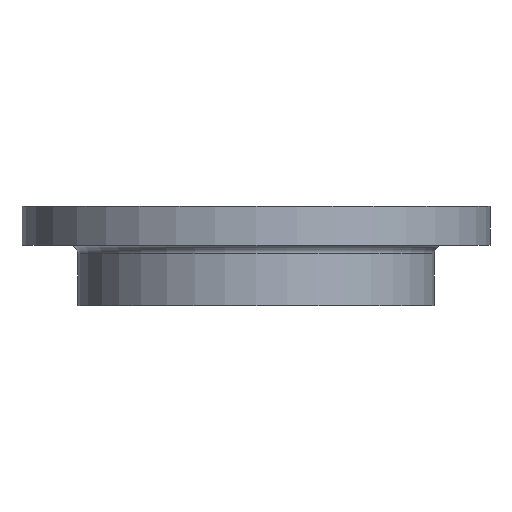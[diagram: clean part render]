
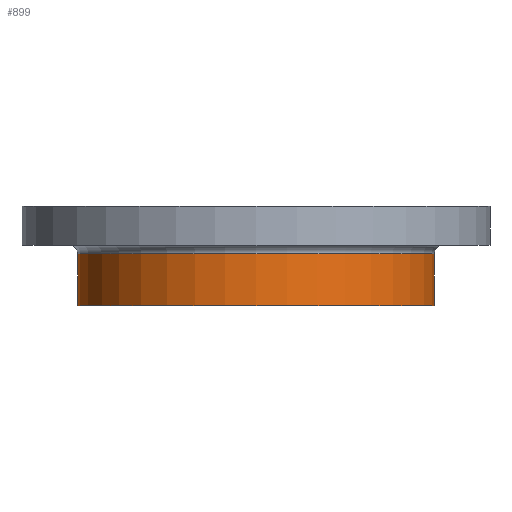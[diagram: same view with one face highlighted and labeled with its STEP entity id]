
A CAD part, front view. The second image highlights one B-rep face of the part: STEP entity #899.
In plain terms, the highlighted cylindrical face has radius 261 mm (diameter 522 mm), a partial arc.
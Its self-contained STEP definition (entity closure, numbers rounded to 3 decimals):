
#53 = DIRECTION ( 'NONE',  ( 1., 0., 0. ) ) ;
#54 = DIRECTION ( 'NONE',  ( 0., 0., 1. ) ) ;
#55 = CARTESIAN_POINT ( 'NONE',  ( 0., 0., -145. ) ) ;
#70 = AXIS2_PLACEMENT_3D ( 'NONE', #92, #917, #1423 ) ;
#84 = CARTESIAN_POINT ( 'NONE',  ( 261., 0., -145. ) ) ;
#92 = CARTESIAN_POINT ( 'NONE',  ( 0., 0., 0. ) ) ;
#123 = CIRCLE ( 'NONE', #159, 261. ) ;
#154 = CARTESIAN_POINT ( 'NONE',  ( -261., 0., -69. ) ) ;
#159 = AXIS2_PLACEMENT_3D ( 'NONE', #55, #54, #53 ) ;
#176 = EDGE_CURVE ( 'NONE', #470, #520, #360, .T. ) ;
#193 = CARTESIAN_POINT ( 'NONE',  ( -261., 0., -145. ) ) ;
#221 = AXIS2_PLACEMENT_3D ( 'NONE', #1280, #1636, #451 ) ;
#228 = CIRCLE ( 'NONE', #221, 261. ) ;
#253 = CARTESIAN_POINT ( 'NONE',  ( 261., 0., -69. ) ) ;
#357 = DIRECTION ( 'NONE',  ( 0., 0., 1. ) ) ;
#358 = CARTESIAN_POINT ( 'NONE',  ( -261., 0., 0. ) ) ;
#360 = LINE ( 'NONE', #358, #1210 ) ;
#374 = CARTESIAN_POINT ( 'NONE',  ( 261., 0., 0. ) ) ;
#419 = VERTEX_POINT ( 'NONE', #253 ) ;
#451 = DIRECTION ( 'NONE',  ( 1., 0., 0. ) ) ;
#470 = VERTEX_POINT ( 'NONE', #193 ) ;
#520 = VERTEX_POINT ( 'NONE', #154 ) ;
#654 = VERTEX_POINT ( 'NONE', #84 ) ;
#693 = EDGE_CURVE ( 'NONE', #470, #654, #123, .T. ) ;
#831 = EDGE_LOOP ( 'NONE', ( #1255, #1258, #1260, #1261 ) ) ;
#833 = VECTOR ( 'NONE', #1073, 1000. ) ;
#899 = ADVANCED_FACE ( 'NONE', ( #1026 ), #1503, .T. ) ;
#917 = DIRECTION ( 'NONE',  ( 0., 0., 1. ) ) ;
#963 = EDGE_CURVE ( 'NONE', #654, #419, #1614, .T. ) ;
#1026 = FACE_OUTER_BOUND ( 'NONE', #831, .T. ) ;
#1073 = DIRECTION ( 'NONE',  ( 0., 0., 1. ) ) ;
#1105 = EDGE_CURVE ( 'NONE', #520, #419, #228, .T. ) ;
#1210 = VECTOR ( 'NONE', #357, 1000. ) ;
#1255 = ORIENTED_EDGE ( 'NONE', *, *, #176, .F. ) ;
#1258 = ORIENTED_EDGE ( 'NONE', *, *, #693, .T. ) ;
#1260 = ORIENTED_EDGE ( 'NONE', *, *, #963, .T. ) ;
#1261 = ORIENTED_EDGE ( 'NONE', *, *, #1105, .F. ) ;
#1280 = CARTESIAN_POINT ( 'NONE',  ( 0., 0., -69. ) ) ;
#1423 = DIRECTION ( 'NONE',  ( 1., 0., 0. ) ) ;
#1503 = CYLINDRICAL_SURFACE ( 'NONE', #70, 261. ) ;
#1614 = LINE ( 'NONE', #374, #833 ) ;
#1636 = DIRECTION ( 'NONE',  ( 0., 0., 1. ) ) ;
